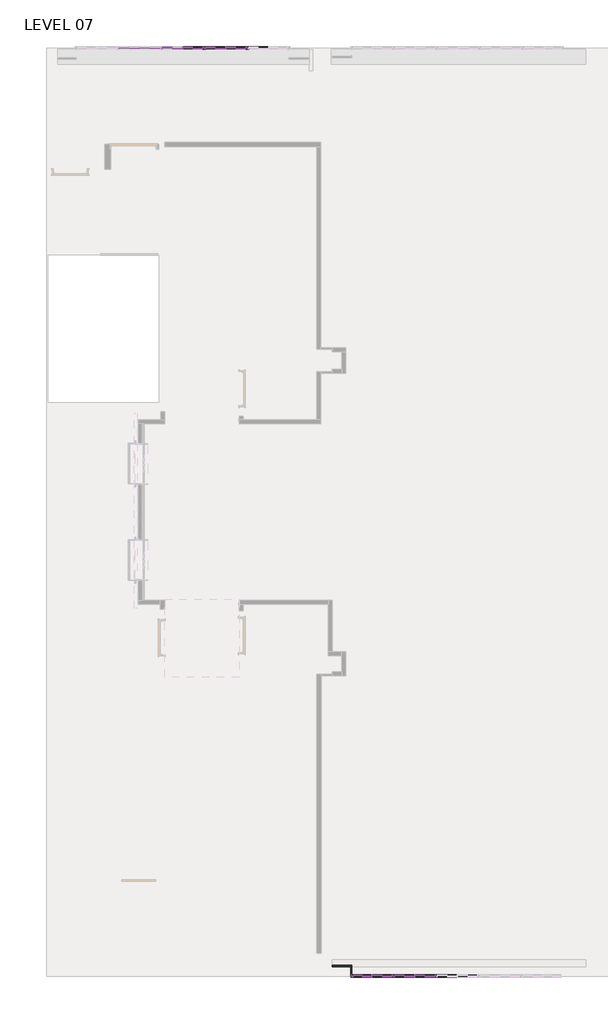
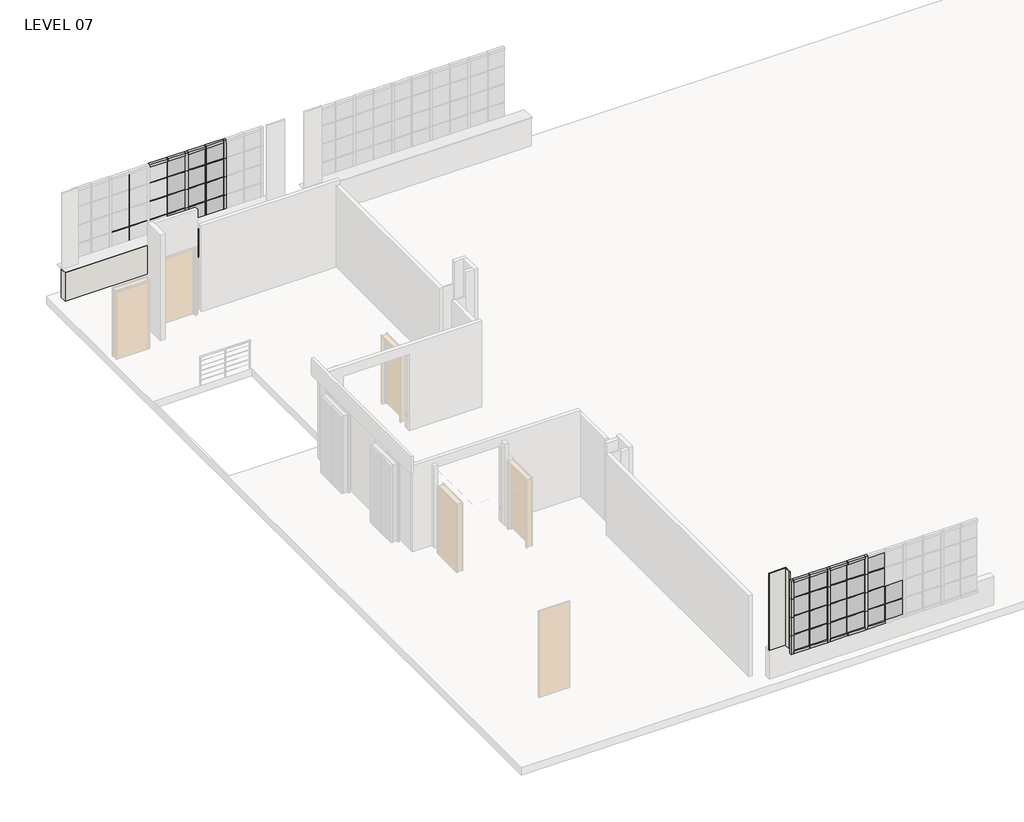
# One storey, part 2 of 15: 83 members, 34 plates, 3 walls.
"""IFC4 building model written with IfcOpenShell, lengths in millimetres."""

from ifc_helpers import new_model, si_unit, frame, origin, place, context, project, spatial, polyline, outline, extrude, faceted_brep, transform, mapped, element, save
from components import member_78bb2ef1, member_cb03ba1c, member_aa53491b, member_d9fe2114, member_c1b5942e, member_9d26962d, member_378e0c06, member_17eb62f4, member_6e5aab5d, member_bacafba3, system_panel_glazed_79ade883, system_panel_glazed_12cc9f41, system_panel_glazed_730530c4, system_panel_glazed_b8d6571b, system_panel_glazed_44697018, system_panel_glazed_bf1454fd

model = new_model("IFC4")

# Units and contexts
model_context = context("Model", 3, world=origin())
ifc_project = project(units=[si_unit("LENGTHUNIT", "METRE", prefix="MILLI")], contexts=[model_context])

# Site, building, storey
site = spatial("IfcSite", under=ifc_project)
building = spatial("IfcBuilding", under=site)
storey = spatial("IfcBuildingStorey", under=building, Name="LEVEL 07", Elevation=20802.6)

# Members
placement = place(None, origin())
member_shape = member_78bb2ef1(model_context)
element("IfcMember", 1, ObjectType="Rectangular Mullion : 1\" x 1\" - Butt Joint", at=placement, inside=storey, context=model_context, shape_type="MappedRepresentation", body=[
    mapped(member_shape, transform((-28769.7521217, -25119.8112062, 23342.6), x_axis=(1.0, 0.0, 0.0), y_axis=(0.0, -1.0, 0.0), z_axis=(0.0, 0.0, -1.0))),
])
element("IfcMember", 2, ObjectType="Rectangular Mullion : 1\" x 1\" - Butt Joint", at=placement, inside=storey, context=model_context, shape_type="MappedRepresentation", body=[
    mapped(member_shape, transform((-27631.8321217, -25119.8112062, 23342.6), x_axis=(1.0, 0.0, 0.0), y_axis=(0.0, -1.0, 0.0), z_axis=(0.0, 0.0, -1.0))),
])
member_2_shape = member_cb03ba1c(model_context)
element("IfcMember", 3, ObjectType="Rectangular Mullion : 1\" x 1\" - Butt Joint", at=placement, inside=storey, context=model_context, shape_type="MappedRepresentation", body=[
    mapped(member_2_shape, transform((-27100.9721217, -25119.8112062, 23342.6), x_axis=(0.0, 0.0, 1.0), y_axis=(0.0, -1.0, 0.0), z_axis=(1.0, 0.0, 0.0))),
])
element("IfcMember", 4, ObjectType="Rectangular Mullion : 1\" x 1\" - Butt Joint", at=placement, inside=storey, context=model_context, shape_type="MappedRepresentation", body=[
    mapped(member_2_shape, transform((-28238.8921217, -25119.8112062, 23342.6), x_axis=(0.0, 0.0, 1.0), y_axis=(0.0, -1.0, 0.0), z_axis=(1.0, 0.0, 0.0))),
])
element("IfcMember", 5, ObjectType="Rectangular Mullion : 1\" x 1\" - Butt Joint", at=placement, inside=storey, context=model_context, shape_type="MappedRepresentation", body=[
    mapped(member_2_shape, transform((-27644.5321217, -25119.8112062, 23342.6), x_axis=(0.0, 0.0, 1.0), y_axis=(0.0, -1.0, 0.0), z_axis=(1.0, 0.0, 0.0))),
])
element("IfcMember", 6, ObjectType="Rectangular Mullion : 1\" x 1\" - Butt Joint", at=placement, inside=storey, context=model_context, shape_type="MappedRepresentation", body=[
    mapped(member_2_shape, transform((-27100.9721217, -25119.8112062, 22758.4), x_axis=(0.0, 0.0, 1.0), y_axis=(0.0, -1.0, 0.0), z_axis=(1.0, 0.0, 0.0))),
])
element("IfcMember", 7, ObjectType="Rectangular Mullion : 1\" x 1\" - Butt Joint", at=placement, inside=storey, context=model_context, shape_type="MappedRepresentation", body=[
    mapped(member_2_shape, transform((-28238.8921217, -25119.8112062, 22758.4), x_axis=(0.0, 0.0, 1.0), y_axis=(0.0, -1.0, 0.0), z_axis=(1.0, 0.0, 0.0))),
])
element("IfcMember", 8, ObjectType="Rectangular Mullion : 1\" x 1\" - Butt Joint", at=placement, inside=storey, context=model_context, shape_type="MappedRepresentation", body=[
    mapped(member_2_shape, transform((-27644.5321217, -25119.8112062, 22758.4), x_axis=(0.0, 0.0, 1.0), y_axis=(0.0, -1.0, 0.0), z_axis=(1.0, 0.0, 0.0))),
])
element("IfcMember", 9, ObjectType="Rectangular Mullion : 1\" x 1\" - Butt Joint", at=placement, inside=storey, context=model_context, shape_type="MappedRepresentation", body=[
    mapped(member_2_shape, transform((-27100.9721217, -25119.8112062, 22174.2), x_axis=(0.0, 0.0, 1.0), y_axis=(0.0, -1.0, 0.0), z_axis=(1.0, 0.0, 0.0))),
])
element("IfcMember", 10, ObjectType="Rectangular Mullion : 1\" x 1\" - Butt Joint", at=placement, inside=storey, context=model_context, shape_type="MappedRepresentation", body=[
    mapped(member_2_shape, transform((-28238.8921217, -25119.8112062, 22174.2), x_axis=(0.0, 0.0, 1.0), y_axis=(0.0, -1.0, 0.0), z_axis=(1.0, 0.0, 0.0))),
])
element("IfcMember", 11, ObjectType="Rectangular Mullion : 1\" x 1\" - Butt Joint", at=placement, inside=storey, context=model_context, shape_type="MappedRepresentation", body=[
    mapped(member_2_shape, transform((-27644.5321217, -25119.8112062, 22174.2), x_axis=(0.0, 0.0, 1.0), y_axis=(0.0, -1.0, 0.0), z_axis=(1.0, 0.0, 0.0))),
])
member_3_shape = member_aa53491b(model_context)
element("IfcMember", 12, ObjectType="Rectangular Mullion : 1\" x 1\" - Butt Joint", at=placement, inside=storey, context=model_context, shape_type="MappedRepresentation", body=[
    mapped(member_3_shape, transform((-28782.4521217, -25119.8112062, 23342.6), x_axis=(0.0, 0.0, 1.0), y_axis=(0.0, -1.0, 0.0), z_axis=(1.0, 0.0, 0.0))),
])
element("IfcMember", 13, ObjectType="Rectangular Mullion : 1\" x 1\" - Butt Joint", at=placement, inside=storey, context=model_context, shape_type="MappedRepresentation", body=[
    mapped(member_3_shape, transform((-28782.4521217, -25119.8112062, 22758.4), x_axis=(0.0, 0.0, 1.0), y_axis=(0.0, -1.0, 0.0), z_axis=(1.0, 0.0, 0.0))),
])
element("IfcMember", 14, ObjectType="Rectangular Mullion : 1\" x 1\" - Butt Joint", at=placement, inside=storey, context=model_context, shape_type="MappedRepresentation", body=[
    mapped(member_3_shape, transform((-28782.4521217, -25119.8112062, 22174.2), x_axis=(0.0, 0.0, 1.0), y_axis=(0.0, -1.0, 0.0), z_axis=(1.0, 0.0, 0.0))),
])
element("IfcMember", 15, ObjectType="Rectangular Mullion : 1\" x 1\" - Butt Joint", at=placement, inside=storey, context=model_context, shape_type="MappedRepresentation", body=[
    mapped(member_shape, transform((-28769.7521217, -25119.8112062, 22758.4), x_axis=(1.0, 0.0, 0.0), y_axis=(0.0, -1.0, 0.0), z_axis=(0.0, 0.0, -1.0))),
])
element("IfcMember", 16, ObjectType="Rectangular Mullion : 1\" x 1\" - Butt Joint", at=placement, inside=storey, context=model_context, shape_type="MappedRepresentation", body=[
    mapped(member_shape, transform((-28769.7521217, -25119.8112062, 22174.2), x_axis=(1.0, 0.0, 0.0), y_axis=(0.0, -1.0, 0.0), z_axis=(0.0, 0.0, -1.0))),
])
element("IfcMember", 17, ObjectType="Rectangular Mullion : 1\" x 1\" - Butt Joint", at=placement, inside=storey, context=model_context, shape_type="MappedRepresentation", body=[
    mapped(member_shape, transform((-27631.8321217, -25119.8112062, 22758.4), x_axis=(1.0, 0.0, 0.0), y_axis=(0.0, -1.0, 0.0), z_axis=(0.0, 0.0, -1.0))),
])
element("IfcMember", 18, ObjectType="Rectangular Mullion : 1\" x 1\" - Butt Joint", at=placement, inside=storey, context=model_context, shape_type="MappedRepresentation", body=[
    mapped(member_shape, transform((-27631.8321217, -25119.8112062, 22174.2), x_axis=(1.0, 0.0, 0.0), y_axis=(0.0, -1.0, 0.0), z_axis=(0.0, 0.0, -1.0))),
])
element("IfcMember", 19, ObjectType="Rectangular Mullion : 1\" x 1\" - Butt Joint", at=placement, inside=storey, context=model_context, shape_type="MappedRepresentation", body=[
    mapped(member_shape, transform((-28769.7521217, -25119.8112062, 21590.0), x_axis=(1.0, 0.0, 0.0), y_axis=(0.0, -1.0, 0.0), z_axis=(0.0, 0.0, -1.0))),
])
element("IfcMember", 20, ObjectType="Rectangular Mullion : 1\" x 1\" - Butt Joint", at=placement, inside=storey, context=model_context, shape_type="MappedRepresentation", body=[
    mapped(member_shape, transform((-27631.8321217, -25119.8112062, 21590.0), x_axis=(1.0, 0.0, 0.0), y_axis=(0.0, -1.0, 0.0), z_axis=(0.0, 0.0, -1.0))),
])
member_4_shape = member_d9fe2114(model_context)
element("IfcMember", 21, ObjectType="Rectangular Mullion : 1\" x 1\" - Butt Joint", at=placement, inside=storey, context=model_context, shape_type="MappedRepresentation", body=[
    mapped(member_4_shape, transform((-33280.0310374, -412.75, 23342.6), x_axis=(0.0, 0.0, 1.0), y_axis=(0.0, -1.0, 0.0), z_axis=(1.0, 0.0, 0.0))),
])
element("IfcMember", 22, ObjectType="Rectangular Mullion : 1\" x 1\" - Butt Joint", at=placement, inside=storey, context=model_context, shape_type="MappedRepresentation", body=[
    mapped(member_4_shape, transform((-32131.9510374, -412.75, 23342.6), x_axis=(0.0, 0.0, 1.0), y_axis=(0.0, -1.0, 0.0), z_axis=(1.0, 0.0, 0.0))),
])
element("IfcMember", 23, ObjectType="Rectangular Mullion : 1\" x 1\" - Butt Joint", at=placement, inside=storey, context=model_context, shape_type="MappedRepresentation", body=[
    mapped(member_4_shape, transform((-33828.6710374, -412.75, 23342.6), x_axis=(0.0, 0.0, 1.0), y_axis=(0.0, -1.0, 0.0), z_axis=(1.0, 0.0, 0.0))),
])
element("IfcMember", 24, ObjectType="Rectangular Mullion : 1\" x 1\" - Butt Joint", at=placement, inside=storey, context=model_context, shape_type="MappedRepresentation", body=[
    mapped(member_4_shape, transform((-32680.5910374, -412.75, 23342.6), x_axis=(0.0, 0.0, 1.0), y_axis=(0.0, -1.0, 0.0), z_axis=(1.0, 0.0, 0.0))),
])
element("IfcMember", 25, ObjectType="Rectangular Mullion : 1\" x 1\" - Butt Joint", at=placement, inside=storey, context=model_context, shape_type="MappedRepresentation", body=[
    mapped(member_4_shape, transform((-33280.0310374, -412.75, 22758.4), x_axis=(0.0, 0.0, 1.0), y_axis=(0.0, -1.0, 0.0), z_axis=(1.0, 0.0, 0.0))),
])
element("IfcMember", 26, ObjectType="Rectangular Mullion : 1\" x 1\" - Butt Joint", at=placement, inside=storey, context=model_context, shape_type="MappedRepresentation", body=[
    mapped(member_4_shape, transform((-32131.9510374, -412.75, 22758.4), x_axis=(0.0, 0.0, 1.0), y_axis=(0.0, -1.0, 0.0), z_axis=(1.0, 0.0, 0.0))),
])
element("IfcMember", 27, ObjectType="Rectangular Mullion : 1\" x 1\" - Butt Joint", at=placement, inside=storey, context=model_context, shape_type="MappedRepresentation", body=[
    mapped(member_4_shape, transform((-33828.6710374, -412.75, 22758.4), x_axis=(0.0, 0.0, 1.0), y_axis=(0.0, -1.0, 0.0), z_axis=(1.0, 0.0, 0.0))),
])
element("IfcMember", 28, ObjectType="Rectangular Mullion : 1\" x 1\" - Butt Joint", at=placement, inside=storey, context=model_context, shape_type="MappedRepresentation", body=[
    mapped(member_4_shape, transform((-32680.5910374, -412.75, 22758.4), x_axis=(0.0, 0.0, 1.0), y_axis=(0.0, -1.0, 0.0), z_axis=(1.0, 0.0, 0.0))),
])
element("IfcMember", 29, ObjectType="Rectangular Mullion : 1\" x 1\" - Butt Joint", at=placement, inside=storey, context=model_context, shape_type="MappedRepresentation", body=[
    mapped(member_4_shape, transform((-34428.1110374, -412.75, 22174.2), x_axis=(0.0, 0.0, 1.0), y_axis=(0.0, -1.0, 0.0), z_axis=(1.0, 0.0, 0.0))),
])
element("IfcMember", 30, ObjectType="Rectangular Mullion : 1\" x 1\" - Butt Joint", at=placement, inside=storey, context=model_context, shape_type="MappedRepresentation", body=[
    mapped(member_4_shape, transform((-33280.0310374, -412.75, 22174.2), x_axis=(0.0, 0.0, 1.0), y_axis=(0.0, -1.0, 0.0), z_axis=(1.0, 0.0, 0.0))),
])
element("IfcMember", 31, ObjectType="Rectangular Mullion : 1\" x 1\" - Butt Joint", at=placement, inside=storey, context=model_context, shape_type="MappedRepresentation", body=[
    mapped(member_4_shape, transform((-32131.9510374, -412.75, 22174.2), x_axis=(0.0, 0.0, 1.0), y_axis=(0.0, -1.0, 0.0), z_axis=(1.0, 0.0, 0.0))),
])
element("IfcMember", 32, ObjectType="Rectangular Mullion : 1\" x 1\" - Butt Joint", at=placement, inside=storey, context=model_context, shape_type="MappedRepresentation", body=[
    mapped(member_4_shape, transform((-34976.7510374, -412.75, 22174.2), x_axis=(0.0, 0.0, 1.0), y_axis=(0.0, -1.0, 0.0), z_axis=(1.0, 0.0, 0.0))),
])
element("IfcMember", 33, ObjectType="Rectangular Mullion : 1\" x 1\" - Butt Joint", at=placement, inside=storey, context=model_context, shape_type="MappedRepresentation", body=[
    mapped(member_4_shape, transform((-33828.6710374, -412.75, 22174.2), x_axis=(0.0, 0.0, 1.0), y_axis=(0.0, -1.0, 0.0), z_axis=(1.0, 0.0, 0.0))),
])
element("IfcMember", 34, ObjectType="Rectangular Mullion : 1\" x 1\" - Butt Joint", at=placement, inside=storey, context=model_context, shape_type="MappedRepresentation", body=[
    mapped(member_4_shape, transform((-32680.5910374, -412.75, 22174.2), x_axis=(0.0, 0.0, 1.0), y_axis=(0.0, -1.0, 0.0), z_axis=(1.0, 0.0, 0.0))),
])
element("IfcMember", 35, ObjectType="Rectangular Mullion : 1\" x 1\" - Butt Joint", at=placement, inside=storey, context=model_context, shape_type="MappedRepresentation", body=[
    mapped(member_shape, transform((-32667.8910374, -412.75, 23342.6), x_axis=(1.0, 0.0, 0.0), y_axis=(0.0, -1.0, 0.0), z_axis=(0.0, 0.0, -1.0))),
])
element("IfcMember", 36, ObjectType="Rectangular Mullion : 1\" x 1\" - Butt Joint", at=placement, inside=storey, context=model_context, shape_type="MappedRepresentation", body=[
    mapped(member_shape, transform((-33815.9710374, -412.75, 23342.6), x_axis=(1.0, 0.0, 0.0), y_axis=(0.0, -1.0, 0.0), z_axis=(0.0, 0.0, -1.0))),
])
element("IfcMember", 37, ObjectType="Rectangular Mullion : 1\" x 1\" - Butt Joint", at=placement, inside=storey, context=model_context, shape_type="MappedRepresentation", body=[
    mapped(member_shape, transform((-34964.0510374, -412.75, 23342.6), x_axis=(1.0, 0.0, 0.0), y_axis=(0.0, -1.0, 0.0), z_axis=(0.0, 0.0, -1.0))),
])
element("IfcMember", 38, ObjectType="Rectangular Mullion : 1\" x 1\" - Butt Joint", at=placement, inside=storey, context=model_context, shape_type="MappedRepresentation", body=[
    mapped(member_shape, transform((-32667.8910374, -412.75, 22174.2), x_axis=(1.0, 0.0, 0.0), y_axis=(0.0, -1.0, 0.0), z_axis=(0.0, 0.0, -1.0))),
])
element("IfcMember", 39, ObjectType="Rectangular Mullion : 1\" x 1\" - Butt Joint", at=placement, inside=storey, context=model_context, shape_type="MappedRepresentation", body=[
    mapped(member_shape, transform((-32667.8910374, -412.75, 22758.4), x_axis=(1.0, 0.0, 0.0), y_axis=(0.0, -1.0, 0.0), z_axis=(0.0, 0.0, -1.0))),
])
element("IfcMember", 40, ObjectType="Rectangular Mullion : 1\" x 1\" - Butt Joint", at=placement, inside=storey, context=model_context, shape_type="MappedRepresentation", body=[
    mapped(member_shape, transform((-33815.9710374, -412.75, 22174.2), x_axis=(1.0, 0.0, 0.0), y_axis=(0.0, -1.0, 0.0), z_axis=(0.0, 0.0, -1.0))),
])
element("IfcMember", 41, ObjectType="Rectangular Mullion : 1\" x 1\" - Butt Joint", at=placement, inside=storey, context=model_context, shape_type="MappedRepresentation", body=[
    mapped(member_shape, transform((-33815.9710374, -412.75, 22758.4), x_axis=(1.0, 0.0, 0.0), y_axis=(0.0, -1.0, 0.0), z_axis=(0.0, 0.0, -1.0))),
])
element("IfcMember", 42, ObjectType="Rectangular Mullion : 1\" x 1\" - Butt Joint", at=placement, inside=storey, context=model_context, shape_type="MappedRepresentation", body=[
    mapped(member_shape, transform((-34964.0510374, -412.75, 22174.2), x_axis=(1.0, 0.0, 0.0), y_axis=(0.0, -1.0, 0.0), z_axis=(0.0, 0.0, -1.0))),
])
element("IfcMember", 43, ObjectType="Rectangular Mullion : 1\" x 1\" - Butt Joint", at=placement, inside=storey, context=model_context, shape_type="MappedRepresentation", body=[
    mapped(member_shape, transform((-34964.0510374, -412.75, 22758.4), x_axis=(1.0, 0.0, 0.0), y_axis=(0.0, -1.0, 0.0), z_axis=(0.0, 0.0, -1.0))),
])
element("IfcMember", 44, ObjectType="Rectangular Mullion : 1\" x 1\" - Butt Joint", at=placement, inside=storey, context=model_context, shape_type="MappedRepresentation", body=[
    mapped(member_shape, transform((-32667.8910374, -412.75, 21590.0), x_axis=(1.0, 0.0, 0.0), y_axis=(0.0, -1.0, 0.0), z_axis=(0.0, 0.0, -1.0))),
])
element("IfcMember", 45, ObjectType="Rectangular Mullion : 1\" x 1\" - Butt Joint", at=placement, inside=storey, context=model_context, shape_type="MappedRepresentation", body=[
    mapped(member_shape, transform((-33815.9710374, -412.75, 21590.0), x_axis=(1.0, 0.0, 0.0), y_axis=(0.0, -1.0, 0.0), z_axis=(0.0, 0.0, -1.0))),
])
element("IfcMember", 46, ObjectType="Rectangular Mullion : 1\" x 1\" - Butt Joint", at=placement, inside=storey, context=model_context, shape_type="MappedRepresentation", body=[
    mapped(member_shape, transform((-34964.0510374, -412.75, 21590.0), x_axis=(1.0, 0.0, 0.0), y_axis=(0.0, -1.0, 0.0), z_axis=(0.0, 0.0, -1.0))),
])
member_5_shape = member_c1b5942e(model_context)
element("IfcMember", 47, ObjectType="Rectangular Mullion : 3\" x 3\" Window Jamb", at=placement, inside=storey, context=model_context, shape_type="MappedRepresentation", body=[
    mapped(member_5_shape, transform((-27619.1321217, -25119.8112062, 21590.0), x_axis=(0.0, 0.0, -1.0), y_axis=(0.0, -1.0, 0.0), z_axis=(-1.0, 0.0, 0.0))),
])
element("IfcMember", 48, ObjectType="Rectangular Mullion : 3\" x 3\" Window Jamb", at=placement, inside=storey, context=model_context, shape_type="MappedRepresentation", body=[
    mapped(member_5_shape, transform((-28757.0521217, -25119.8112062, 21590.0), x_axis=(0.0, 0.0, -1.0), y_axis=(0.0, -1.0, 0.0), z_axis=(-1.0, 0.0, 0.0))),
])
element("IfcMember", 49, ObjectType="Rectangular Mullion : 3\" x 3\" Window Jamb", at=placement, inside=storey, context=model_context, shape_type="MappedRepresentation", body=[
    mapped(member_5_shape, transform((-27024.7721217, -25119.8112062, 21590.0), x_axis=(0.0, 0.0, -1.0), y_axis=(0.0, -1.0, 0.0), z_axis=(-1.0, 0.0, 0.0))),
])
element("IfcMember", 50, ObjectType="Rectangular Mullion : 3\" x 3\" Window Jamb", at=placement, inside=storey, context=model_context, shape_type="MappedRepresentation", body=[
    mapped(member_5_shape, transform((-28162.6921217, -25119.8112062, 21590.0), x_axis=(0.0, 0.0, -1.0), y_axis=(0.0, -1.0, 0.0), z_axis=(-1.0, 0.0, 0.0))),
])
member_6_shape = member_9d26962d(model_context)
element("IfcMember", 51, ObjectType="Rectangular Mullion : 3\" x 3\" Window Jamb", at=placement, inside=storey, context=model_context, shape_type="MappedRepresentation", body=[
    mapped(member_6_shape, transform((-29262.5121217, -25119.8112062, 21590.0), x_axis=(0.0, 0.0, -1.0), y_axis=(0.0, -1.0, 0.0), z_axis=(-1.0, 0.0, 0.0))),
])
element("IfcMember", 52, ObjectType="Rectangular Mullion : 3\" x 3\" Window Jamb", at=placement, inside=storey, context=model_context, shape_type="MappedRepresentation", body=[
    mapped(member_6_shape, transform((-28782.4521217, -25119.8112062, 23926.8), x_axis=(0.0, 0.0, 1.0), y_axis=(0.0, -1.0, 0.0), z_axis=(1.0, 0.0, 0.0))),
])
element("IfcMember", 53, ObjectType="Rectangular Mullion : 3\" x 3\" Window Jamb", at=placement, inside=storey, context=model_context, shape_type="MappedRepresentation", body=[
    mapped(member_5_shape, transform((-27644.5321217, -25119.8112062, 23926.8), x_axis=(0.0, 0.0, 1.0), y_axis=(0.0, -1.0, 0.0), z_axis=(1.0, 0.0, 0.0))),
])
element("IfcMember", 54, ObjectType="Rectangular Mullion : 3\" x 3\" Window Jamb", at=placement, inside=storey, context=model_context, shape_type="MappedRepresentation", body=[
    mapped(member_5_shape, transform((-27100.9721217, -25119.8112062, 23926.8), x_axis=(0.0, 0.0, 1.0), y_axis=(0.0, -1.0, 0.0), z_axis=(1.0, 0.0, 0.0))),
])
element("IfcMember", 55, ObjectType="Rectangular Mullion : 3\" x 3\" Window Jamb", at=placement, inside=storey, context=model_context, shape_type="MappedRepresentation", body=[
    mapped(member_5_shape, transform((-28238.8921217, -25119.8112062, 23926.8), x_axis=(0.0, 0.0, 1.0), y_axis=(0.0, -1.0, 0.0), z_axis=(1.0, 0.0, 0.0))),
])
member_7_shape = member_378e0c06(model_context)
element("IfcMember", 56, ObjectType="Rectangular Mullion : 3\" x 3\" Window Jamb", at=placement, inside=storey, context=model_context, shape_type="MappedRepresentation", body=[
    mapped(member_7_shape, transform((-28200.7921217, -25119.8112062, 23342.6), x_axis=(1.0, 0.0, 0.0), y_axis=(0.0, -1.0, 0.0), z_axis=(0.0, 0.0, -1.0))),
])
element("IfcMember", 57, ObjectType="Rectangular Mullion : 3\" x 3\" Window Jamb", at=placement, inside=storey, context=model_context, shape_type="MappedRepresentation", body=[
    mapped(member_7_shape, transform((-27062.8721217, -25119.8112062, 23342.6), x_axis=(1.0, 0.0, 0.0), y_axis=(0.0, -1.0, 0.0), z_axis=(0.0, 0.0, -1.0))),
])
member_8_shape = member_17eb62f4(model_context)
element("IfcMember", 58, ObjectType="Rectangular Mullion : 3\" x 3\" Window Jamb", at=placement, inside=storey, context=model_context, shape_type="MappedRepresentation", body=[
    mapped(member_8_shape, transform((-29338.7121217, -25119.8112062, 23926.8), x_axis=(-1.0, 0.0, 0.0), y_axis=(0.0, -1.0, 0.0), z_axis=(0.0, 0.0, 1.0))),
])
element("IfcMember", 59, ObjectType="Rectangular Mullion : 3\" x 3\" Window Jamb", at=placement, inside=storey, context=model_context, shape_type="MappedRepresentation", body=[
    mapped(member_7_shape, transform((-28200.7921217, -25119.8112062, 22758.4), x_axis=(1.0, 0.0, 0.0), y_axis=(0.0, -1.0, 0.0), z_axis=(0.0, 0.0, -1.0))),
])
element("IfcMember", 60, ObjectType="Rectangular Mullion : 3\" x 3\" Window Jamb", at=placement, inside=storey, context=model_context, shape_type="MappedRepresentation", body=[
    mapped(member_7_shape, transform((-28200.7921217, -25119.8112062, 22174.2), x_axis=(1.0, 0.0, 0.0), y_axis=(0.0, -1.0, 0.0), z_axis=(0.0, 0.0, -1.0))),
])
element("IfcMember", 61, ObjectType="Rectangular Mullion : 3\" x 3\" Window Jamb", at=placement, inside=storey, context=model_context, shape_type="MappedRepresentation", body=[
    mapped(member_7_shape, transform((-27062.8721217, -25119.8112062, 22758.4), x_axis=(1.0, 0.0, 0.0), y_axis=(0.0, -1.0, 0.0), z_axis=(0.0, 0.0, -1.0))),
])
element("IfcMember", 62, ObjectType="Rectangular Mullion : 3\" x 3\" Window Jamb", at=placement, inside=storey, context=model_context, shape_type="MappedRepresentation", body=[
    mapped(member_7_shape, transform((-27062.8721217, -25119.8112062, 22174.2), x_axis=(1.0, 0.0, 0.0), y_axis=(0.0, -1.0, 0.0), z_axis=(0.0, 0.0, -1.0))),
])
element("IfcMember", 63, ObjectType="Rectangular Mullion : 3\" x 3\" Window Jamb", at=placement, inside=storey, context=model_context, shape_type="MappedRepresentation", body=[
    mapped(member_8_shape, transform((-29338.7121217, -25119.8112062, 23342.6), x_axis=(-1.0, 0.0, 0.0), y_axis=(0.0, -1.0, 0.0), z_axis=(0.0, 0.0, 1.0))),
])
element("IfcMember", 64, ObjectType="Rectangular Mullion : 3\" x 3\" Window Jamb", at=placement, inside=storey, context=model_context, shape_type="MappedRepresentation", body=[
    mapped(member_8_shape, transform((-29338.7121217, -25119.8112062, 22758.4), x_axis=(-1.0, 0.0, 0.0), y_axis=(0.0, -1.0, 0.0), z_axis=(0.0, 0.0, 1.0))),
])
element("IfcMember", 65, ObjectType="Rectangular Mullion : 3\" x 3\" Window Jamb", at=placement, inside=storey, context=model_context, shape_type="MappedRepresentation", body=[
    mapped(member_7_shape, transform((-28200.7921217, -25119.8112062, 21590.0), x_axis=(1.0, 0.0, 0.0), y_axis=(0.0, -1.0, 0.0), z_axis=(0.0, 0.0, -1.0))),
])
element("IfcMember", 66, ObjectType="Rectangular Mullion : 3\" x 3\" Window Jamb", at=placement, inside=storey, context=model_context, shape_type="MappedRepresentation", body=[
    mapped(member_7_shape, transform((-27062.8721217, -25119.8112062, 21590.0), x_axis=(1.0, 0.0, 0.0), y_axis=(0.0, -1.0, 0.0), z_axis=(0.0, 0.0, -1.0))),
])
element("IfcMember", 67, ObjectType="Rectangular Mullion : 3\" x 3\" Window Jamb", at=placement, inside=storey, context=model_context, shape_type="MappedRepresentation", body=[
    mapped(member_8_shape, transform((-29338.7121217, -25119.8112062, 22174.2), x_axis=(-1.0, 0.0, 0.0), y_axis=(0.0, -1.0, 0.0), z_axis=(0.0, 0.0, 1.0))),
])
member_9_shape = member_6e5aab5d(model_context)
element("IfcMember", 68, ObjectType="Rectangular Mullion : 3\" x 3\" Window Jamb", at=placement, inside=storey, context=model_context, shape_type="MappedRepresentation", body=[
    mapped(member_9_shape, transform((-33828.6710374, -412.75, 23926.8), x_axis=(0.0, 0.0, 1.0), y_axis=(0.0, -1.0, 0.0), z_axis=(1.0, 0.0, 0.0))),
])
element("IfcMember", 69, ObjectType="Rectangular Mullion : 3\" x 3\" Window Jamb", at=placement, inside=storey, context=model_context, shape_type="MappedRepresentation", body=[
    mapped(member_9_shape, transform((-32680.5910374, -412.75, 23926.8), x_axis=(0.0, 0.0, 1.0), y_axis=(0.0, -1.0, 0.0), z_axis=(1.0, 0.0, 0.0))),
])
element("IfcMember", 70, ObjectType="Rectangular Mullion : 3\" x 3\" Window Jamb", at=placement, inside=storey, context=model_context, shape_type="MappedRepresentation", body=[
    mapped(member_9_shape, transform((-33280.0310374, -412.75, 23926.8), x_axis=(0.0, 0.0, 1.0), y_axis=(0.0, -1.0, 0.0), z_axis=(1.0, 0.0, 0.0))),
])
element("IfcMember", 71, ObjectType="Rectangular Mullion : 3\" x 3\" Window Jamb", at=placement, inside=storey, context=model_context, shape_type="MappedRepresentation", body=[
    mapped(member_9_shape, transform((-32131.9510374, -412.75, 23926.8), x_axis=(0.0, 0.0, 1.0), y_axis=(0.0, -1.0, 0.0), z_axis=(1.0, 0.0, 0.0))),
])
element("IfcMember", 72, ObjectType="Rectangular Mullion : 3\" x 3\" Window Jamb", at=placement, inside=storey, context=model_context, shape_type="MappedRepresentation", body=[
    mapped(member_9_shape, transform((-33803.2710374, -412.75, 21590.0), x_axis=(0.0, 0.0, -1.0), y_axis=(0.0, -1.0, 0.0), z_axis=(-1.0, 0.0, 0.0))),
])
element("IfcMember", 73, ObjectType="Rectangular Mullion : 3\" x 3\" Window Jamb", at=placement, inside=storey, context=model_context, shape_type="MappedRepresentation", body=[
    mapped(member_9_shape, transform((-32655.1910374, -412.75, 21590.0), x_axis=(0.0, 0.0, -1.0), y_axis=(0.0, -1.0, 0.0), z_axis=(-1.0, 0.0, 0.0))),
])
element("IfcMember", 74, ObjectType="Rectangular Mullion : 3\" x 3\" Window Jamb", at=placement, inside=storey, context=model_context, shape_type="MappedRepresentation", body=[
    mapped(member_9_shape, transform((-33203.8310374, -412.75, 21590.0), x_axis=(0.0, 0.0, -1.0), y_axis=(0.0, -1.0, 0.0), z_axis=(-1.0, 0.0, 0.0))),
])
element("IfcMember", 75, ObjectType="Rectangular Mullion : 3\" x 3\" Window Jamb", at=placement, inside=storey, context=model_context, shape_type="MappedRepresentation", body=[
    mapped(member_9_shape, transform((-32055.7510374, -412.75, 21590.0), x_axis=(0.0, 0.0, -1.0), y_axis=(0.0, -1.0, 0.0), z_axis=(-1.0, 0.0, 0.0))),
])
member_10_shape = member_bacafba3(model_context)
element("IfcMember", 76, ObjectType="Rectangular Mullion : 3\" x 3\" Window Jamb", at=placement, inside=storey, context=model_context, shape_type="MappedRepresentation", body=[
    mapped(member_10_shape, transform((-32093.8510374, -412.75, 23342.6), x_axis=(1.0, 0.0, 0.0), y_axis=(0.0, -1.0, 0.0), z_axis=(0.0, 0.0, -1.0))),
])
element("IfcMember", 77, ObjectType="Rectangular Mullion : 3\" x 3\" Window Jamb", at=placement, inside=storey, context=model_context, shape_type="MappedRepresentation", body=[
    mapped(member_10_shape, transform((-33241.9310374, -412.75, 23342.6), x_axis=(1.0, 0.0, 0.0), y_axis=(0.0, -1.0, 0.0), z_axis=(0.0, 0.0, -1.0))),
])
element("IfcMember", 78, ObjectType="Rectangular Mullion : 3\" x 3\" Window Jamb", at=placement, inside=storey, context=model_context, shape_type="MappedRepresentation", body=[
    mapped(member_10_shape, transform((-32093.8510374, -412.75, 22174.2), x_axis=(1.0, 0.0, 0.0), y_axis=(0.0, -1.0, 0.0), z_axis=(0.0, 0.0, -1.0))),
])
element("IfcMember", 79, ObjectType="Rectangular Mullion : 3\" x 3\" Window Jamb", at=placement, inside=storey, context=model_context, shape_type="MappedRepresentation", body=[
    mapped(member_10_shape, transform((-32093.8510374, -412.75, 22758.4), x_axis=(1.0, 0.0, 0.0), y_axis=(0.0, -1.0, 0.0), z_axis=(0.0, 0.0, -1.0))),
])
element("IfcMember", 80, ObjectType="Rectangular Mullion : 3\" x 3\" Window Jamb", at=placement, inside=storey, context=model_context, shape_type="MappedRepresentation", body=[
    mapped(member_10_shape, transform((-33241.9310374, -412.75, 22174.2), x_axis=(1.0, 0.0, 0.0), y_axis=(0.0, -1.0, 0.0), z_axis=(0.0, 0.0, -1.0))),
])
element("IfcMember", 81, ObjectType="Rectangular Mullion : 3\" x 3\" Window Jamb", at=placement, inside=storey, context=model_context, shape_type="MappedRepresentation", body=[
    mapped(member_10_shape, transform((-33241.9310374, -412.75, 22758.4), x_axis=(1.0, 0.0, 0.0), y_axis=(0.0, -1.0, 0.0), z_axis=(0.0, 0.0, -1.0))),
])
element("IfcMember", 82, ObjectType="Rectangular Mullion : 3\" x 3\" Window Jamb", at=placement, inside=storey, context=model_context, shape_type="MappedRepresentation", body=[
    mapped(member_10_shape, transform((-32093.8510374, -412.75, 21590.0), x_axis=(1.0, 0.0, 0.0), y_axis=(0.0, -1.0, 0.0), z_axis=(0.0, 0.0, -1.0))),
])
element("IfcMember", 83, ObjectType="Rectangular Mullion : 3\" x 3\" Window Jamb", at=placement, inside=storey, context=model_context, shape_type="MappedRepresentation", body=[
    mapped(member_10_shape, transform((-33241.9310374, -412.75, 21590.0), x_axis=(1.0, 0.0, 0.0), y_axis=(0.0, -1.0, 0.0), z_axis=(0.0, 0.0, -1.0))),
])

# Plates
system_panel_glazed_shape = system_panel_glazed_79ade883(model_context)
element("IfcPlate", 84, ObjectType="System Panel : Glazed", at=placement, inside=storey, context=model_context, shape_type="MappedRepresentation", body=[
    mapped(system_panel_glazed_shape, transform((-29022.4821217, -25119.8112062, 21666.2), x_axis=(1.0, 0.0, 0.0), y_axis=(0.0, 1.0, 0.0), z_axis=(0.0, 0.0, 1.0))),
])
element("IfcPlate", 85, ObjectType="System Panel : Glazed", at=placement, inside=storey, context=model_context, shape_type="MappedRepresentation", body=[
    mapped(system_panel_glazed_shape, transform((-29022.4821217, -25119.8112062, 23355.3), x_axis=(1.0, 0.0, 0.0), y_axis=(0.0, 1.0, 0.0), z_axis=(0.0, 0.0, 1.0))),
])
system_panel_glazed_2_shape = system_panel_glazed_12cc9f41(model_context)
element("IfcPlate", 86, ObjectType="System Panel : Glazed", at=placement, inside=storey, context=model_context, shape_type="MappedRepresentation", body=[
    mapped(system_panel_glazed_2_shape, transform((-27903.6121217, -25119.8112062, 21666.2), x_axis=(1.0, 0.0, 0.0), y_axis=(0.0, 1.0, 0.0), z_axis=(0.0, 0.0, 1.0))),
])
element("IfcPlate", 87, ObjectType="System Panel : Glazed", at=placement, inside=storey, context=model_context, shape_type="MappedRepresentation", body=[
    mapped(system_panel_glazed_2_shape, transform((-26765.6921217, -25119.8112062, 21666.2), x_axis=(1.0, 0.0, 0.0), y_axis=(0.0, 1.0, 0.0), z_axis=(0.0, 0.0, 1.0))),
])
element("IfcPlate", 88, ObjectType="System Panel : Glazed", at=placement, inside=storey, context=model_context, shape_type="MappedRepresentation", body=[
    mapped(system_panel_glazed_2_shape, transform((-27903.6121217, -25119.8112062, 23355.3), x_axis=(1.0, 0.0, 0.0), y_axis=(0.0, 1.0, 0.0), z_axis=(0.0, 0.0, 1.0))),
])
element("IfcPlate", 89, ObjectType="System Panel : Glazed", at=placement, inside=storey, context=model_context, shape_type="MappedRepresentation", body=[
    mapped(system_panel_glazed_2_shape, transform((-26765.6921217, -25119.8112062, 23355.3), x_axis=(1.0, 0.0, 0.0), y_axis=(0.0, 1.0, 0.0), z_axis=(0.0, 0.0, 1.0))),
])
element("IfcPlate", 90, ObjectType="System Panel : Glazed", at=placement, inside=storey, context=model_context, shape_type="MappedRepresentation", body=[
    mapped(system_panel_glazed_2_shape, transform((-28497.9721217, -25119.8112062, 21666.2), x_axis=(1.0, 0.0, 0.0), y_axis=(0.0, 1.0, 0.0), z_axis=(0.0, 0.0, 1.0))),
])
element("IfcPlate", 91, ObjectType="System Panel : Glazed", at=placement, inside=storey, context=model_context, shape_type="MappedRepresentation", body=[
    mapped(system_panel_glazed_2_shape, transform((-28497.9721217, -25119.8112062, 23355.3), x_axis=(1.0, 0.0, 0.0), y_axis=(0.0, 1.0, 0.0), z_axis=(0.0, 0.0, 1.0))),
])
element("IfcPlate", 92, ObjectType="System Panel : Glazed", at=placement, inside=storey, context=model_context, shape_type="MappedRepresentation", body=[
    mapped(system_panel_glazed_2_shape, transform((-27360.0521217, -25119.8112062, 21666.2), x_axis=(1.0, 0.0, 0.0), y_axis=(0.0, 1.0, 0.0), z_axis=(0.0, 0.0, 1.0))),
])
element("IfcPlate", 93, ObjectType="System Panel : Glazed", at=placement, inside=storey, context=model_context, shape_type="MappedRepresentation", body=[
    mapped(system_panel_glazed_2_shape, transform((-27360.0521217, -25119.8112062, 23355.3), x_axis=(1.0, 0.0, 0.0), y_axis=(0.0, 1.0, 0.0), z_axis=(0.0, 0.0, 1.0))),
])
element("IfcPlate", 94, ObjectType="System Panel : Glazed", at=placement, inside=storey, context=model_context, shape_type="MappedRepresentation", body=[
    mapped(system_panel_glazed_2_shape, transform((-26222.1321217, -25119.8112062, 21666.2), x_axis=(1.0, 0.0, 0.0), y_axis=(0.0, 1.0, 0.0), z_axis=(0.0, 0.0, 1.0))),
])
system_panel_glazed_3_shape = system_panel_glazed_730530c4(model_context)
element("IfcPlate", 95, ObjectType="System Panel : Glazed", at=placement, inside=storey, context=model_context, shape_type="MappedRepresentation", body=[
    mapped(system_panel_glazed_3_shape, transform((-29022.4821217, -25119.8112062, 22186.9), x_axis=(1.0, 0.0, 0.0), y_axis=(0.0, 1.0, 0.0), z_axis=(0.0, 0.0, 1.0))),
])
element("IfcPlate", 96, ObjectType="System Panel : Glazed", at=placement, inside=storey, context=model_context, shape_type="MappedRepresentation", body=[
    mapped(system_panel_glazed_3_shape, transform((-29022.4821217, -25119.8112062, 22771.1), x_axis=(1.0, 0.0, 0.0), y_axis=(0.0, 1.0, 0.0), z_axis=(0.0, 0.0, 1.0))),
])
system_panel_glazed_4_shape = system_panel_glazed_b8d6571b(model_context)
element("IfcPlate", 97, ObjectType="System Panel : Glazed", at=placement, inside=storey, context=model_context, shape_type="MappedRepresentation", body=[
    mapped(system_panel_glazed_4_shape, transform((-27903.6121217, -25119.8112062, 22186.9), x_axis=(1.0, 0.0, 0.0), y_axis=(0.0, 1.0, 0.0), z_axis=(0.0, 0.0, 1.0))),
])
element("IfcPlate", 98, ObjectType="System Panel : Glazed", at=placement, inside=storey, context=model_context, shape_type="MappedRepresentation", body=[
    mapped(system_panel_glazed_4_shape, transform((-26765.6921217, -25119.8112062, 22186.9), x_axis=(1.0, 0.0, 0.0), y_axis=(0.0, 1.0, 0.0), z_axis=(0.0, 0.0, 1.0))),
])
element("IfcPlate", 99, ObjectType="System Panel : Glazed", at=placement, inside=storey, context=model_context, shape_type="MappedRepresentation", body=[
    mapped(system_panel_glazed_4_shape, transform((-27903.6121217, -25119.8112062, 22771.1), x_axis=(1.0, 0.0, 0.0), y_axis=(0.0, 1.0, 0.0), z_axis=(0.0, 0.0, 1.0))),
])
element("IfcPlate", 100, ObjectType="System Panel : Glazed", at=placement, inside=storey, context=model_context, shape_type="MappedRepresentation", body=[
    mapped(system_panel_glazed_4_shape, transform((-26765.6921217, -25119.8112062, 22771.1), x_axis=(1.0, 0.0, 0.0), y_axis=(0.0, 1.0, 0.0), z_axis=(0.0, 0.0, 1.0))),
])
element("IfcPlate", 101, ObjectType="System Panel : Glazed", at=placement, inside=storey, context=model_context, shape_type="MappedRepresentation", body=[
    mapped(system_panel_glazed_4_shape, transform((-28497.9721217, -25119.8112062, 22186.9), x_axis=(1.0, 0.0, 0.0), y_axis=(0.0, 1.0, 0.0), z_axis=(0.0, 0.0, 1.0))),
])
element("IfcPlate", 102, ObjectType="System Panel : Glazed", at=placement, inside=storey, context=model_context, shape_type="MappedRepresentation", body=[
    mapped(system_panel_glazed_4_shape, transform((-28497.9721217, -25119.8112062, 22771.1), x_axis=(1.0, 0.0, 0.0), y_axis=(0.0, 1.0, 0.0), z_axis=(0.0, 0.0, 1.0))),
])
element("IfcPlate", 103, ObjectType="System Panel : Glazed", at=placement, inside=storey, context=model_context, shape_type="MappedRepresentation", body=[
    mapped(system_panel_glazed_4_shape, transform((-27360.0521217, -25119.8112062, 22186.9), x_axis=(1.0, 0.0, 0.0), y_axis=(0.0, 1.0, 0.0), z_axis=(0.0, 0.0, 1.0))),
])
element("IfcPlate", 104, ObjectType="System Panel : Glazed", at=placement, inside=storey, context=model_context, shape_type="MappedRepresentation", body=[
    mapped(system_panel_glazed_4_shape, transform((-27360.0521217, -25119.8112062, 22771.1), x_axis=(1.0, 0.0, 0.0), y_axis=(0.0, 1.0, 0.0), z_axis=(0.0, 0.0, 1.0))),
])
element("IfcPlate", 105, ObjectType="System Panel : Glazed", at=placement, inside=storey, context=model_context, shape_type="MappedRepresentation", body=[
    mapped(system_panel_glazed_4_shape, transform((-26222.1321217, -25119.8112062, 22186.9), x_axis=(1.0, 0.0, 0.0), y_axis=(0.0, 1.0, 0.0), z_axis=(0.0, 0.0, 1.0))),
])
system_panel_glazed_5_shape = system_panel_glazed_44697018(model_context)
element("IfcPlate", 106, ObjectType="System Panel : Glazed", at=placement, inside=storey, context=model_context, shape_type="MappedRepresentation", body=[
    mapped(system_panel_glazed_5_shape, transform((-32942.2110374, -412.75, 21666.2), x_axis=(1.0, 0.0, 0.0), y_axis=(0.0, 1.0, 0.0), z_axis=(0.0, 0.0, 1.0))),
])
element("IfcPlate", 107, ObjectType="System Panel : Glazed", at=placement, inside=storey, context=model_context, shape_type="MappedRepresentation", body=[
    mapped(system_panel_glazed_5_shape, transform((-32942.2110374, -412.75, 23355.3), x_axis=(1.0, 0.0, 0.0), y_axis=(0.0, 1.0, 0.0), z_axis=(0.0, 0.0, 1.0))),
])
element("IfcPlate", 108, ObjectType="System Panel : Glazed", at=placement, inside=storey, context=model_context, shape_type="MappedRepresentation", body=[
    mapped(system_panel_glazed_5_shape, transform((-32393.5710374, -412.75, 21666.2), x_axis=(1.0, 0.0, 0.0), y_axis=(0.0, 1.0, 0.0), z_axis=(0.0, 0.0, 1.0))),
])
element("IfcPlate", 109, ObjectType="System Panel : Glazed", at=placement, inside=storey, context=model_context, shape_type="MappedRepresentation", body=[
    mapped(system_panel_glazed_5_shape, transform((-32393.5710374, -412.75, 23355.3), x_axis=(1.0, 0.0, 0.0), y_axis=(0.0, 1.0, 0.0), z_axis=(0.0, 0.0, 1.0))),
])
element("IfcPlate", 110, ObjectType="System Panel : Glazed", at=placement, inside=storey, context=model_context, shape_type="MappedRepresentation", body=[
    mapped(system_panel_glazed_5_shape, transform((-33541.6510374, -412.75, 21666.2), x_axis=(1.0, 0.0, 0.0), y_axis=(0.0, 1.0, 0.0), z_axis=(0.0, 0.0, 1.0))),
])
element("IfcPlate", 111, ObjectType="System Panel : Glazed", at=placement, inside=storey, context=model_context, shape_type="MappedRepresentation", body=[
    mapped(system_panel_glazed_5_shape, transform((-33541.6510374, -412.75, 23355.3), x_axis=(1.0, 0.0, 0.0), y_axis=(0.0, 1.0, 0.0), z_axis=(0.0, 0.0, 1.0))),
])
system_panel_glazed_6_shape = system_panel_glazed_bf1454fd(model_context)
element("IfcPlate", 112, ObjectType="System Panel : Glazed", at=placement, inside=storey, context=model_context, shape_type="MappedRepresentation", body=[
    mapped(system_panel_glazed_6_shape, transform((-32942.2110374, -412.75, 22771.1), x_axis=(1.0, 0.0, 0.0), y_axis=(0.0, 1.0, 0.0), z_axis=(0.0, 0.0, 1.0))),
])
element("IfcPlate", 113, ObjectType="System Panel : Glazed", at=placement, inside=storey, context=model_context, shape_type="MappedRepresentation", body=[
    mapped(system_panel_glazed_6_shape, transform((-32942.2110374, -412.75, 22186.9), x_axis=(1.0, 0.0, 0.0), y_axis=(0.0, 1.0, 0.0), z_axis=(0.0, 0.0, 1.0))),
])
element("IfcPlate", 114, ObjectType="System Panel : Glazed", at=placement, inside=storey, context=model_context, shape_type="MappedRepresentation", body=[
    mapped(system_panel_glazed_6_shape, transform((-32393.5710374, -412.75, 22186.9), x_axis=(1.0, 0.0, 0.0), y_axis=(0.0, 1.0, 0.0), z_axis=(0.0, 0.0, 1.0))),
])
element("IfcPlate", 115, ObjectType="System Panel : Glazed", at=placement, inside=storey, context=model_context, shape_type="MappedRepresentation", body=[
    mapped(system_panel_glazed_6_shape, transform((-32393.5710374, -412.75, 22771.1), x_axis=(1.0, 0.0, 0.0), y_axis=(0.0, 1.0, 0.0), z_axis=(0.0, 0.0, 1.0))),
])
element("IfcPlate", 116, ObjectType="System Panel : Glazed", at=placement, inside=storey, context=model_context, shape_type="MappedRepresentation", body=[
    mapped(system_panel_glazed_6_shape, transform((-33541.6510374, -412.75, 22186.9), x_axis=(1.0, 0.0, 0.0), y_axis=(0.0, 1.0, 0.0), z_axis=(0.0, 0.0, 1.0))),
])
element("IfcPlate", 117, ObjectType="System Panel : Glazed", at=placement, inside=storey, context=model_context, shape_type="MappedRepresentation", body=[
    mapped(system_panel_glazed_6_shape, transform((-33541.6510374, -412.75, 22771.1), x_axis=(1.0, 0.0, 0.0), y_axis=(0.0, 1.0, 0.0), z_axis=(0.0, 0.0, 1.0))),
])

# Walls
element("IfcWall", 118, ObjectType="Partition A6_", at=placement, inside=storey, context=model_context, shape_type="SweptSolid", body=[
    extrude(outline(polyline([(-37135.9849596, -654.05), (-30436.7349596, -654.05), (-30436.7349596, -838.2), (-37135.9849596, -838.2), (-37135.9849596, -654.05)])), frame((0.0, 0.0, 20802.6), z_axis=(0.0, 0.0, 1.0), x_axis=(1.0, 0.0, 0.0)), (0.0, 0.0, 1.0), 914.4),
])
element("IfcWall", 119, ObjectType="Partition F0_", at=placement, inside=storey, context=model_context, shape_type="Brep", body=[
    faceted_brep([(-29827.1349596, -24881.6862062, 21717.0), (-29338.7121217, -24881.6862062, 21717.0), (-29303.7871217, -24881.6862062, 21717.0), (-29303.7871217, -24881.6862062, 24155.4), (-29338.7121217, -24881.6862062, 24155.4), (-29827.1349596, -24881.6862062, 24155.4), (-29827.1349596, -24846.7612062, 21717.0), (-29827.1349596, -24846.7612062, 24155.4), (-29303.7871217, -24846.7612062, 24155.4), (-29303.7871217, -24846.7612062, 21717.0)], [[[0, 1, 2, 3, 4, 5]], [[6, 7, 8, 9]], [[2, 1, 0, 6, 9]], [[5, 4, 3, 8, 7]], [[0, 5, 7, 6]], [[3, 2, 9, 8]]]),
])
element("IfcWall", 120, ObjectType="Partition F0_", at=placement, inside=storey, context=model_context, shape_type="SweptSolid", body=[
    extrude(outline(polyline([(-29338.7121217, -25081.7112062), (-29338.7121217, -24881.6862062), (-29303.7871217, -24881.6862062), (-29303.7871217, -25081.7112062), (-29338.7121217, -25081.7112062)])), frame((0.0, 0.0, 21717.0), z_axis=(0.0, 0.0, 1.0), x_axis=(1.0, 0.0, 0.0)), (0.0, 0.0, 1.0), 2438.4),
])

save(model, "model.ifc")
